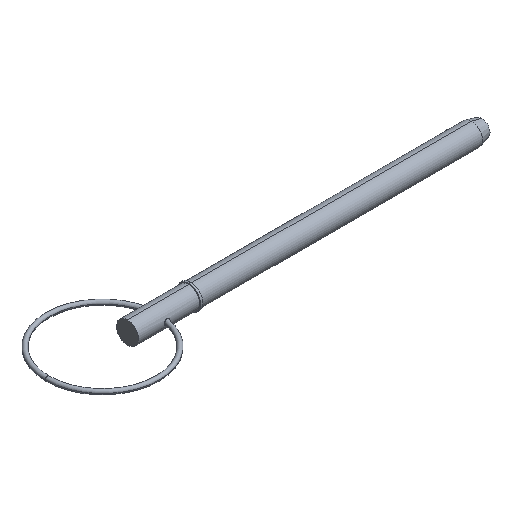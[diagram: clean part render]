
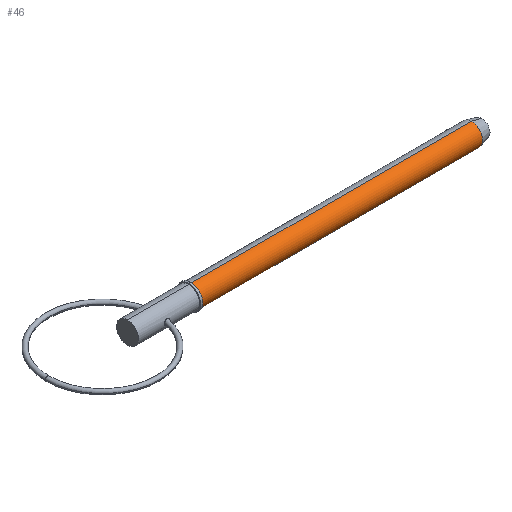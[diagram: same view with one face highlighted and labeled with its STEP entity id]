
A CAD part, isometric view. The second image highlights one B-rep face of the part: STEP entity #46.
In plain terms, the highlighted cylindrical face has radius 3.175 mm (diameter 6.35 mm), a partial arc.
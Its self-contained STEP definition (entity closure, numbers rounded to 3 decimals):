
#1 = ORIENTED_EDGE ( 'NONE', *, *, #165, .F. ) ;
#12 = VECTOR ( 'NONE', #404, 1000. ) ;
#22 = DIRECTION ( 'NONE',  ( 0., 0., -1. ) ) ;
#46 = ADVANCED_FACE ( 'NONE', ( #846 ), #496, .T. ) ;
#84 = AXIS2_PLACEMENT_3D ( 'NONE', #420, #197, #601 ) ;
#98 = LINE ( 'NONE', #836, #12 ) ;
#129 = CARTESIAN_POINT ( 'NONE',  ( 18.29, 0., -3.175 ) ) ;
#158 = DIRECTION ( 'NONE',  ( 1., 0., 0. ) ) ;
#165 = EDGE_CURVE ( 'NONE', #594, #469, #872, .T. ) ;
#189 = AXIS2_PLACEMENT_3D ( 'NONE', #711, #158, #22 ) ;
#197 = DIRECTION ( 'NONE',  ( 1., 0., 0. ) ) ;
#232 = CARTESIAN_POINT ( 'NONE',  ( 18.29, 0., 3.175 ) ) ;
#240 = CIRCLE ( 'NONE', #189, 3.175 ) ;
#241 = VERTEX_POINT ( 'NONE', #129 ) ;
#276 = CARTESIAN_POINT ( 'NONE',  ( 0., 0., -3.175 ) ) ;
#290 = DIRECTION ( 'NONE',  ( 0., 0., -1. ) ) ;
#327 = CARTESIAN_POINT ( 'NONE',  ( 99.448, 0., 3.175 ) ) ;
#334 = ORIENTED_EDGE ( 'NONE', *, *, #465, .F. ) ;
#361 = ORIENTED_EDGE ( 'NONE', *, *, #480, .T. ) ;
#404 = DIRECTION ( 'NONE',  ( 1., 0., 0. ) ) ;
#420 = CARTESIAN_POINT ( 'NONE',  ( 0., 0., 0. ) ) ;
#465 = EDGE_CURVE ( 'NONE', #537, #594, #98, .T. ) ;
#469 = VERTEX_POINT ( 'NONE', #704 ) ;
#480 = EDGE_CURVE ( 'NONE', #537, #241, #240, .T. ) ;
#496 = CYLINDRICAL_SURFACE ( 'NONE', #84, 3.175 ) ;
#537 = VERTEX_POINT ( 'NONE', #232 ) ;
#553 = CARTESIAN_POINT ( 'NONE',  ( 99.448, 0., 0. ) ) ;
#556 = AXIS2_PLACEMENT_3D ( 'NONE', #553, #973, #290 ) ;
#588 = DIRECTION ( 'NONE',  ( 1., 0., 0. ) ) ;
#594 = VERTEX_POINT ( 'NONE', #327 ) ;
#601 = DIRECTION ( 'NONE',  ( 0., 0., -1. ) ) ;
#704 = CARTESIAN_POINT ( 'NONE',  ( 99.448, 0., -3.175 ) ) ;
#711 = CARTESIAN_POINT ( 'NONE',  ( 18.29, 0., 0. ) ) ;
#836 = CARTESIAN_POINT ( 'NONE',  ( 0., 0., 3.175 ) ) ;
#846 = FACE_OUTER_BOUND ( 'NONE', #921, .T. ) ;
#857 = ORIENTED_EDGE ( 'NONE', *, *, #903, .T. ) ;
#861 = VECTOR ( 'NONE', #588, 1000. ) ;
#872 = CIRCLE ( 'NONE', #556, 3.175 ) ;
#903 = EDGE_CURVE ( 'NONE', #241, #469, #968, .T. ) ;
#921 = EDGE_LOOP ( 'NONE', ( #334, #361, #857, #1 ) ) ;
#968 = LINE ( 'NONE', #276, #861 ) ;
#973 = DIRECTION ( 'NONE',  ( 1., 0., 0. ) ) ;
